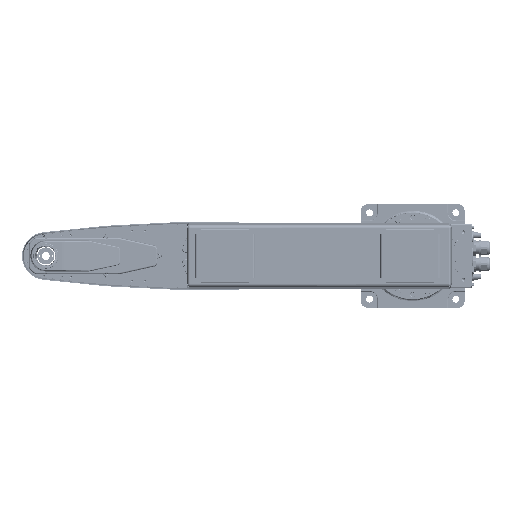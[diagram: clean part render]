
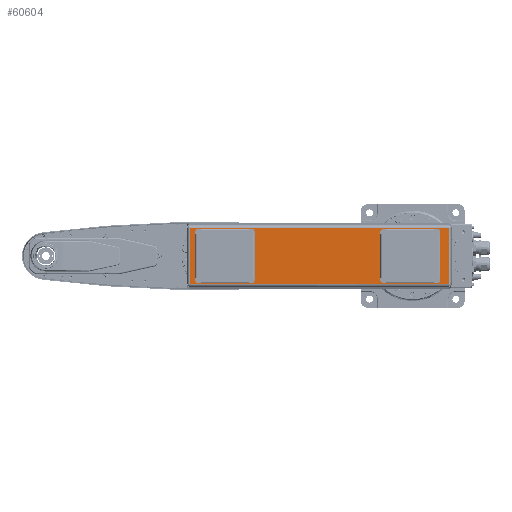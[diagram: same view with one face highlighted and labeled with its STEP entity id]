
A CAD part, front view. The second image highlights one B-rep face of the part: STEP entity #60604.
In plain terms, the highlighted planar face has unit normal (0, -1, 0).
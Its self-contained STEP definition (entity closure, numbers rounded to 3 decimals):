
#42640=DIRECTION('',(1.,0.,0.));
#42641=VECTOR('',#42640,599.818);
#42642=CARTESIAN_POINT('',(-516.909,-282.3,
-64.195));
#42643=LINE('',#42642,#42641);
#42654=CARTESIAN_POINT('',(82.909,-282.3,
-64.195));
#42732=DIRECTION('',(0.,0.,1.));
#42733=VECTOR('',#42732,128.39);
#42734=CARTESIAN_POINT('',(82.909,-282.3,
-64.195));
#42735=LINE('',#42734,#42733);
#42736=DIRECTION('',(0.,0.,-1.));
#42737=VECTOR('',#42736,128.39);
#42738=CARTESIAN_POINT('',(-516.909,-282.3,
64.195));
#42739=LINE('',#42738,#42737);
#42740=DIRECTION('',(-1.,0.,0.));
#42741=VECTOR('',#42740,122.);
#42742=CARTESIAN_POINT('',(55.,-282.3,-63.5));
#42743=LINE('',#42742,#42741);
#42744=CARTESIAN_POINT('',(55.,-282.3,-55.5));
#42745=DIRECTION('',(0.,1.,0.));
#42746=DIRECTION('',(1.,0.,0.));
#42747=AXIS2_PLACEMENT_3D('',#42744,#42745,#42746);
#42749=DIRECTION('',(0.,0.,-1.));
#42750=VECTOR('',#42749,111.);
#42751=CARTESIAN_POINT('',(63.,-282.3,55.5));
#42752=LINE('',#42751,#42750);
#42753=CARTESIAN_POINT('',(55.,-282.3,55.5));
#42754=DIRECTION('',(0.,1.,0.));
#42755=DIRECTION('',(0.,0.,1.));
#42756=AXIS2_PLACEMENT_3D('',#42753,#42754,#42755);
#42758=DIRECTION('',(1.,0.,0.));
#42759=VECTOR('',#42758,122.);
#42760=CARTESIAN_POINT('',(-67.,-282.3,63.5));
#42761=LINE('',#42760,#42759);
#42762=CARTESIAN_POINT('',(-67.,-282.3,55.5));
#42763=DIRECTION('',(0.,1.,0.));
#42764=DIRECTION('',(-1.,0.,0.));
#42765=AXIS2_PLACEMENT_3D('',#42762,#42763,#42764);
#42767=DIRECTION('',(0.,0.,1.));
#42768=VECTOR('',#42767,111.);
#42769=CARTESIAN_POINT('',(-75.,-282.3,-55.5));
#42770=LINE('',#42769,#42768);
#42771=CARTESIAN_POINT('',(-67.,-282.3,-55.5));
#42772=DIRECTION('',(0.,1.,0.));
#42773=DIRECTION('',(0.,0.,-1.));
#42774=AXIS2_PLACEMENT_3D('',#42771,#42772,#42773);
#42776=DIRECTION('',(-1.,0.,0.));
#42777=VECTOR('',#42776,122.);
#42778=CARTESIAN_POINT('',(-374.,-282.3,-63.5));
#42779=LINE('',#42778,#42777);
#42780=CARTESIAN_POINT('',(-374.,-282.3,-55.5));
#42781=DIRECTION('',(0.,1.,0.));
#42782=DIRECTION('',(1.,0.,0.));
#42783=AXIS2_PLACEMENT_3D('',#42780,#42781,#42782);
#42785=DIRECTION('',(0.,0.,-1.));
#42786=VECTOR('',#42785,111.);
#42787=CARTESIAN_POINT('',(-366.,-282.3,55.5));
#42788=LINE('',#42787,#42786);
#42789=CARTESIAN_POINT('',(-374.,-282.3,55.5));
#42790=DIRECTION('',(0.,1.,0.));
#42791=DIRECTION('',(0.,0.,1.));
#42792=AXIS2_PLACEMENT_3D('',#42789,#42790,#42791);
#42794=DIRECTION('',(1.,0.,0.));
#42795=VECTOR('',#42794,122.);
#42796=CARTESIAN_POINT('',(-496.,-282.3,63.5));
#42797=LINE('',#42796,#42795);
#42798=CARTESIAN_POINT('',(-496.,-282.3,55.5));
#42799=DIRECTION('',(0.,1.,0.));
#42800=DIRECTION('',(-1.,0.,0.));
#42801=AXIS2_PLACEMENT_3D('',#42798,#42799,#42800);
#42803=DIRECTION('',(0.,0.,1.));
#42804=VECTOR('',#42803,111.);
#42805=CARTESIAN_POINT('',(-504.,-282.3,-55.5));
#42806=LINE('',#42805,#42804);
#42807=CARTESIAN_POINT('',(-496.,-282.3,-55.5));
#42808=DIRECTION('',(0.,1.,0.));
#42809=DIRECTION('',(0.,0.,-1.));
#42810=AXIS2_PLACEMENT_3D('',#42807,#42808,#42809);
#42858=DIRECTION('',(-1.,0.,0.));
#42859=VECTOR('',#42858,599.818);
#42860=CARTESIAN_POINT('',(82.909,-282.3,
64.195));
#42861=LINE('',#42860,#42859);
#42872=CARTESIAN_POINT('',(-516.909,-282.3,
64.195));
#53396=VERTEX_POINT('',#42872);
#53399=CARTESIAN_POINT('',(-516.909,-282.3,
-64.195));
#53400=VERTEX_POINT('',#53399);
#54090=VERTEX_POINT('',#42654);
#54093=CARTESIAN_POINT('',(82.909,-282.3,
64.195));
#54094=VERTEX_POINT('',#54093);
#54759=CARTESIAN_POINT('',(55.,-282.3,-63.5));
#54760=CARTESIAN_POINT('',(-67.,-282.3,-63.5));
#54761=VERTEX_POINT('',#54759);
#54762=VERTEX_POINT('',#54760);
#54763=CARTESIAN_POINT('',(-75.,-282.3,-55.5));
#54764=VERTEX_POINT('',#54763);
#54765=CARTESIAN_POINT('',(-75.,-282.3,55.5));
#54766=CARTESIAN_POINT('',(-67.,-282.3,63.5));
#54767=VERTEX_POINT('',#54765);
#54768=VERTEX_POINT('',#54766);
#54769=CARTESIAN_POINT('',(55.,-282.3,63.5));
#54770=VERTEX_POINT('',#54769);
#54771=CARTESIAN_POINT('',(63.,-282.3,55.5));
#54772=VERTEX_POINT('',#54771);
#54773=CARTESIAN_POINT('',(63.,-282.3,-55.5));
#54774=VERTEX_POINT('',#54773);
#55067=CARTESIAN_POINT('',(-374.,-282.3,-63.5));
#55068=CARTESIAN_POINT('',(-496.,-282.3,-63.5));
#55069=VERTEX_POINT('',#55067);
#55070=VERTEX_POINT('',#55068);
#55071=CARTESIAN_POINT('',(-504.,-282.3,-55.5));
#55072=VERTEX_POINT('',#55071);
#55073=CARTESIAN_POINT('',(-504.,-282.3,55.5));
#55074=CARTESIAN_POINT('',(-496.,-282.3,63.5));
#55075=VERTEX_POINT('',#55073);
#55076=VERTEX_POINT('',#55074);
#55077=CARTESIAN_POINT('',(-374.,-282.3,63.5));
#55078=VERTEX_POINT('',#55077);
#55079=CARTESIAN_POINT('',(-366.,-282.3,55.5));
#55080=VERTEX_POINT('',#55079);
#55081=CARTESIAN_POINT('',(-366.,-282.3,-55.5));
#55082=VERTEX_POINT('',#55081);
#60554=CARTESIAN_POINT('',(78.,-282.3,-71.));
#60555=DIRECTION('',(0.,-1.,0.));
#60556=DIRECTION('',(0.,0.,1.));
#60557=AXIS2_PLACEMENT_3D('',#60554,#60555,#60556);
#60558=PLANE('',#60557);
#60560=ORIENTED_EDGE('',*,*,#60559,.F.);
#60562=ORIENTED_EDGE('',*,*,#60561,.F.);
#60563=ORIENTED_EDGE('',*,*,#60536,.F.);
#60565=ORIENTED_EDGE('',*,*,#60564,.F.);
#60566=EDGE_LOOP('',(#60560,#60562,#60563,#60565));
#60567=FACE_OUTER_BOUND('',#60566,.F.);
#60569=ORIENTED_EDGE('',*,*,#60568,.F.);
#60571=ORIENTED_EDGE('',*,*,#60570,.F.);
#60573=ORIENTED_EDGE('',*,*,#60572,.F.);
#60575=ORIENTED_EDGE('',*,*,#60574,.F.);
#60577=ORIENTED_EDGE('',*,*,#60576,.F.);
#60579=ORIENTED_EDGE('',*,*,#60578,.F.);
#60581=ORIENTED_EDGE('',*,*,#60580,.F.);
#60583=ORIENTED_EDGE('',*,*,#60582,.F.);
#60584=EDGE_LOOP('',(#60569,#60571,#60573,#60575,#60577,#60579,#60581,#60583));
#60585=FACE_BOUND('',#60584,.F.);
#60587=ORIENTED_EDGE('',*,*,#60586,.F.);
#60589=ORIENTED_EDGE('',*,*,#60588,.F.);
#60591=ORIENTED_EDGE('',*,*,#60590,.F.);
#60593=ORIENTED_EDGE('',*,*,#60592,.F.);
#60595=ORIENTED_EDGE('',*,*,#60594,.F.);
#60597=ORIENTED_EDGE('',*,*,#60596,.F.);
#60599=ORIENTED_EDGE('',*,*,#60598,.F.);
#60601=ORIENTED_EDGE('',*,*,#60600,.F.);
#60602=EDGE_LOOP('',(#60587,#60589,#60591,#60593,#60595,#60597,#60599,#60601));
#60603=FACE_BOUND('',#60602,.F.);
#60604=ADVANCED_FACE('',(#60567,#60585,#60603),#60558,.T.);
#42748=CIRCLE('',#42747,8.);
#42757=CIRCLE('',#42756,8.);
#42766=CIRCLE('',#42765,8.);
#42775=CIRCLE('',#42774,8.);
#42784=CIRCLE('',#42783,8.);
#42793=CIRCLE('',#42792,8.);
#42802=CIRCLE('',#42801,8.);
#42811=CIRCLE('',#42810,8.);
#60536=EDGE_CURVE('',#53400,#54090,#42643,.T.);
#60559=EDGE_CURVE('',#54094,#53396,#42861,.T.);
#60561=EDGE_CURVE('',#54090,#54094,#42735,.T.);
#60564=EDGE_CURVE('',#53396,#53400,#42739,.T.);
#60568=EDGE_CURVE('',#54761,#54762,#42743,.T.);
#60570=EDGE_CURVE('',#54774,#54761,#42748,.T.);
#60572=EDGE_CURVE('',#54772,#54774,#42752,.T.);
#60574=EDGE_CURVE('',#54770,#54772,#42757,.T.);
#60576=EDGE_CURVE('',#54768,#54770,#42761,.T.);
#60578=EDGE_CURVE('',#54767,#54768,#42766,.T.);
#60580=EDGE_CURVE('',#54764,#54767,#42770,.T.);
#60582=EDGE_CURVE('',#54762,#54764,#42775,.T.);
#60586=EDGE_CURVE('',#55069,#55070,#42779,.T.);
#60588=EDGE_CURVE('',#55082,#55069,#42784,.T.);
#60590=EDGE_CURVE('',#55080,#55082,#42788,.T.);
#60592=EDGE_CURVE('',#55078,#55080,#42793,.T.);
#60594=EDGE_CURVE('',#55076,#55078,#42797,.T.);
#60596=EDGE_CURVE('',#55075,#55076,#42802,.T.);
#60598=EDGE_CURVE('',#55072,#55075,#42806,.T.);
#60600=EDGE_CURVE('',#55070,#55072,#42811,.T.);
